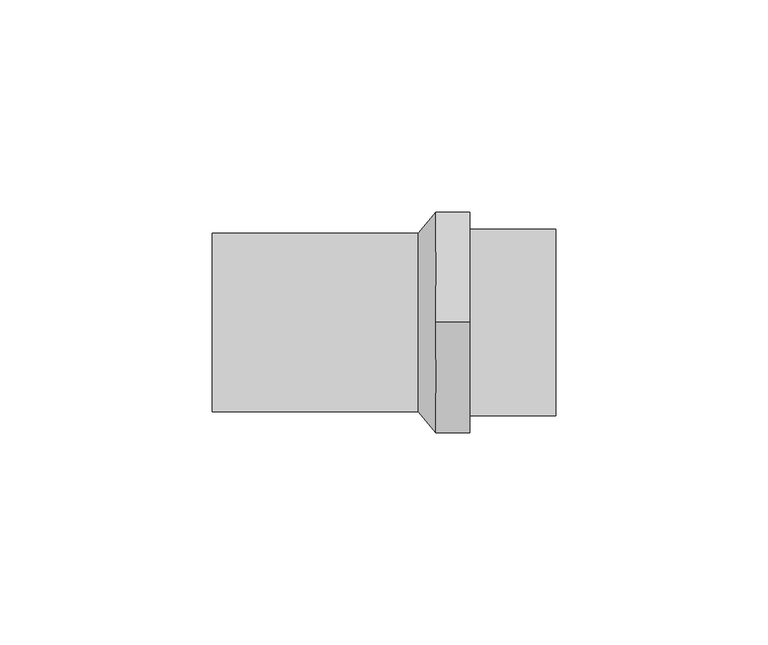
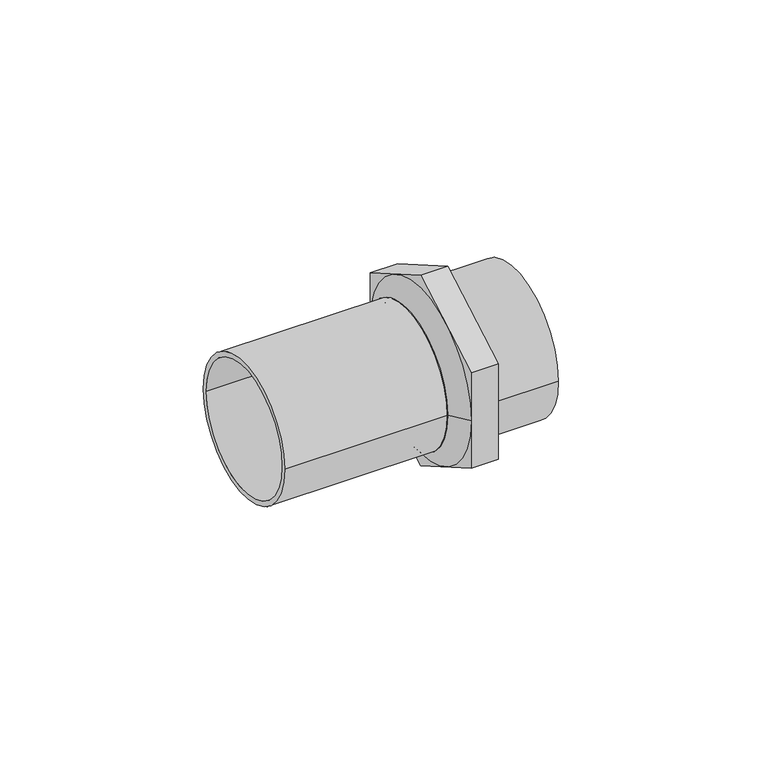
"""IFC4 building model written with IfcOpenShell, lengths in millimetres: pipe fitting geometry, VALTEC_VTi.906.I_Вставка с наружной резьбой нержавеющая сталь : VTi.906.I."""

from ifc_helpers import new_model, si_unit, point, frame, origin, origin_2d, place, context, project, spatial, polyline, circle_curve, trimmed, segment, composite_curve, outline, extrude, source, transform, mapped, element, save
from ifc_brep_helpers import plane_surface, revolved_surface, advanced_brep


def pipe_fitting_388ec35c(model_context):
    return source(origin(), model_context, "Body", "SolidModel", [
        extrude(outline(composite_curve([segment(trimmed(circle_curve(origin_2d(), 22.0), [point((-22.0, 0.0))], [point((22.0, 0.0))], False, "CARTESIAN"), True, "CONTINUOUS"), segment(trimmed(circle_curve(origin_2d(), 22.0), [point((22.0, 0.0))], [point((-22.0, 0.0))], False, "CARTESIAN"), True, "CONTINUOUS")], self_intersect=False), holes=[composite_curve([segment(trimmed(circle_curve(origin_2d(), 20.0), [point((-20.0, 0.0))], [point((20.0, 0.0))], True, "CARTESIAN"), True, "CONTINUOUS"), segment(trimmed(circle_curve(origin_2d(), 20.0), [point((20.0, 0.0))], [point((-20.0, 0.0))], True, "CARTESIAN"), True, "CONTINUOUS")], self_intersect=False)]), frame((60.75, 0.0, 0.0), z_axis=(1.0, 0.0, 0.0), x_axis=(0.0, 1.0, 0.0)), (0.0, 0.0, 1.0), 20.25),
        advanced_brep(
        [(52.65, -26.0, 0.0), (52.65, 26.0, 0.0), (48.6, -21.0, 0.0), (48.6, 21.0, 0.0)],
        [
            (0, 1, circle_curve(frame((52.65, 0.0, 0.0), z_axis=(1.0, 0.0, 0.0), x_axis=(0.0, -1.0, 0.0)), 26.0)),
            (1, 0, circle_curve(frame((52.65, 0.0, 0.0), z_axis=(1.0, 0.0, 0.0), x_axis=(0.0, 1.0, 0.0)), 26.0)),
            (2, 3, circle_curve(frame((48.6, 0.0, 0.0), z_axis=(-1.0, 0.0, 0.0), x_axis=(0.0, 1.0, 0.0)), 21.0)),
            (3, 2, circle_curve(frame((48.6, 0.0, 0.0), z_axis=(-1.0, 0.0, 0.0), x_axis=(0.0, -1.0, 0.0)), 21.0)),
            (3, 1),
            (0, 2),
        ],
        [
            plane_surface(frame((52.65, 0.0, 0.0), z_axis=(1.0, 0.0, 0.0), x_axis=(0.0, 0.0, -1.0))),
            plane_surface(frame((48.6, 0.0, 0.0), z_axis=(-1.0, 0.0, 0.0), x_axis=(0.0, 0.0, -1.0))),
            revolved_surface(polyline([(48.6, 21.000000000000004, 0.0), (52.65, 26.0, 0.0)]), (31.59, 0.0, 0.0), (1.0, 0.0, 0.0)),
            revolved_surface(polyline([(48.6, -21.000000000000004, 0.0), (52.65, -26.0, 0.0)]), (31.59, 0.0, 0.0), (1.0, 0.0, 0.0)),
        ],
        [
            (0, [[1, 2]]),
            (1, [[3, 4]]),
            (2, [[-4, 5, -1, 6]]),
            (3, [[-3, -6, -2, -5]]),
        ],
    ),
        extrude(outline(polyline([(0.0, 30.022214), (26.0, 15.011107), (26.0, -15.011107), (0.0, -30.022214), (-26.0, -15.011107), (-26.0, 15.011107), (0.0, 30.022214)]), holes=[composite_curve([segment(trimmed(circle_curve(origin_2d(), 20.0), [point((-20.0, 0.0))], [point((20.0, 0.0))], True, "CARTESIAN"), True, "CONTINUOUS"), segment(trimmed(circle_curve(origin_2d(), 20.0), [point((20.0, 0.0))], [point((-20.0, 0.0))], True, "CARTESIAN"), True, "CONTINUOUS")], self_intersect=False)]), frame((52.65, 0.0, 0.0), z_axis=(1.0, 0.0, 0.0), x_axis=(0.0, 1.0, 0.0)), (0.0, 0.0, 1.0), 8.1),
        extrude(outline(composite_curve([segment(trimmed(circle_curve(origin_2d(), 21.0), [point((-21.0, 0.0))], [point((21.0, 0.0))], False, "CARTESIAN"), True, "CONTINUOUS"), segment(trimmed(circle_curve(origin_2d(), 21.0), [point((21.0, 0.0))], [point((-21.0, 0.0))], False, "CARTESIAN"), True, "CONTINUOUS")], self_intersect=False), holes=[composite_curve([segment(trimmed(circle_curve(origin_2d(), 19.5), [point((-19.5, 0.0))], [point((19.5, 0.0))], True, "CARTESIAN"), True, "CONTINUOUS"), segment(trimmed(circle_curve(origin_2d(), 19.5), [point((19.5, 0.0))], [point((-19.5, 0.0))], True, "CARTESIAN"), True, "CONTINUOUS")], self_intersect=False)]), frame((0.0, 0.0, 0.0), z_axis=(1.0, 0.0, 0.0), x_axis=(0.0, 1.0, 0.0)), (0.0, 0.0, 1.0), 48.6),
    ])


if __name__ == "__main__":
    model = new_model("IFC4")
    model_context = context("Model", 3, world=origin())
    ifc_project = project(units=[si_unit("LENGTHUNIT", "METRE", prefix="MILLI")], contexts=[model_context])
    site = spatial("IfcSite", under=ifc_project)
    building = spatial("IfcBuilding", under=site)
    placement = place(None, origin())
    pipe_fitting_shape = pipe_fitting_388ec35c(model_context)
    element("IfcPipeFitting", 1, ObjectType="VALTEC_VTi.906.I_Вставка с наружной резьбой нержавеющая сталь : VTi.906.I", at=placement, inside=building, context=model_context, shape_type="MappedRepresentation", body=[
        mapped(pipe_fitting_shape, transform((0.0, 0.0, 0.0), x_axis=(1.0, 0.0, 0.0), y_axis=(0.0, 1.0, 0.0), z_axis=(0.0, 0.0, 1.0))),
    ])
    save(model, "model.ifc")
